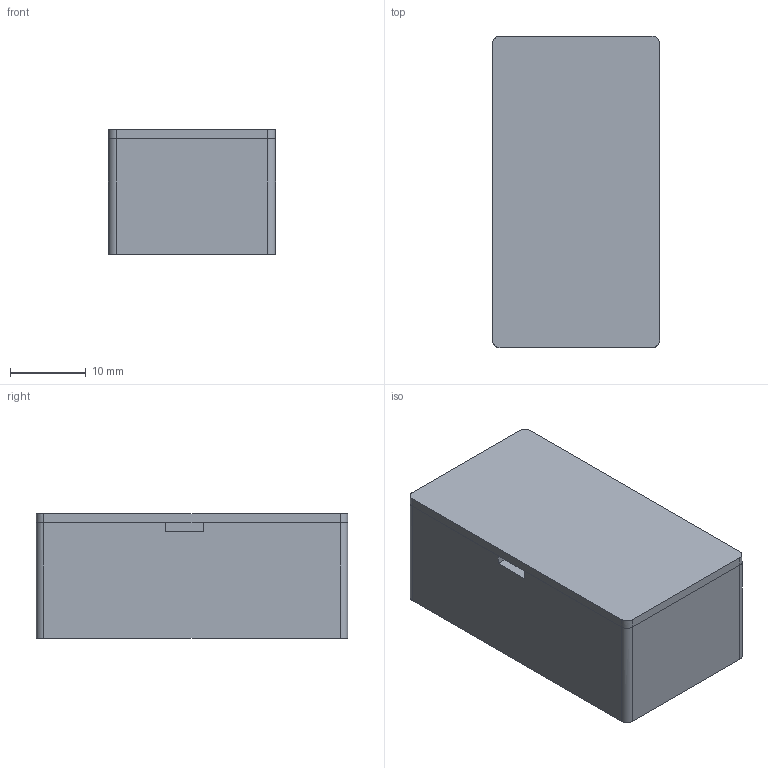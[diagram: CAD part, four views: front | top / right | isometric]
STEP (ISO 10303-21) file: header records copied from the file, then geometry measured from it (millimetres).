
FILE_DESCRIPTION(('SolidCraft model'),'2;1');
FILE_NAME('assembled.step','',(''),(''),'SolidCraft','SolidCraft','');
FILE_SCHEMA(('AP242_MANAGED_MODEL_BASED_3D_ENGINEERING_MIM_LF { 1 0 10303 442 1 1 4 }'));
Length unit declared in the file: millimetre
Products named in the file (1): assembled
Bounding box: 22 x 41 x 16.4 mm (x, y, z)
Volume: 7365.9 mm3; surface area: 10797.1 mm2
Topology: 5 solids, 5 shells, 481 faces, 1170 edges, 780 vertices
Faces by surface type: plane 473, cylinder 8
Entity records: 9958 total; most frequent: ORIENTED_EDGE 2340, EDGE_CURVE 1170, LINE 1154, CARTESIAN_POINT 1030, VERTEX_POINT 780, VECTOR 574, EDGE_LOOP 564, FACE_BOUND 564
